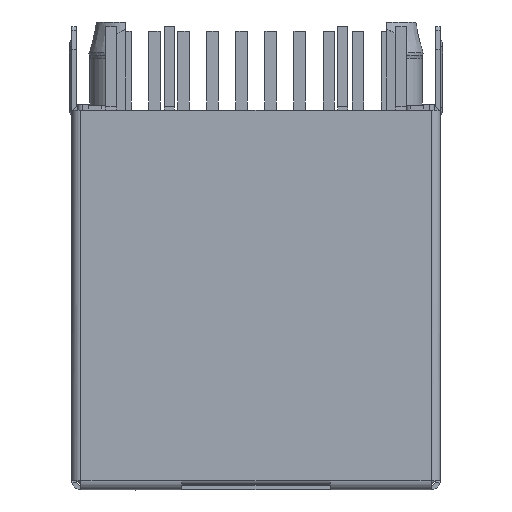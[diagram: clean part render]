
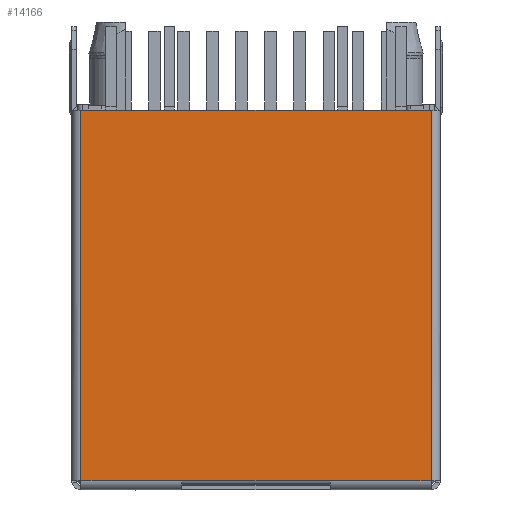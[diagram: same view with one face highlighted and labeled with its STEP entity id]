
A CAD part, left-side view. The second image highlights one B-rep face of the part: STEP entity #14166.
In plain terms, the highlighted planar face has unit normal (-1, 0, 0).
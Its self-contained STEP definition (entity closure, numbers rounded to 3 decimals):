
#1871=DIRECTION('',(0.,0.,-1.));
#1872=VECTOR('',#1871,16.2);
#1873=CARTESIAN_POINT('',(-8.425,7.65,8.175));
#1874=LINE('',#1873,#1872);
#2236=DIRECTION('',(0.,-1.,0.));
#2237=VECTOR('',#2236,4.4);
#2238=CARTESIAN_POINT('',(-8.425,7.65,-8.025));
#2239=LINE('',#2238,#2237);
#2254=DIRECTION('',(0.,1.,0.));
#2255=VECTOR('',#2254,6.5);
#2256=CARTESIAN_POINT('',(-8.425,-3.25,-8.025));
#2257=LINE('',#2256,#2255);
#2266=DIRECTION('',(0.,-1.,0.));
#2267=VECTOR('',#2266,15.3);
#2268=CARTESIAN_POINT('',(-8.425,7.65,8.175));
#2269=LINE('',#2268,#2267);
#2296=DIRECTION('',(0.,-1.,0.));
#2297=VECTOR('',#2296,4.4);
#2298=CARTESIAN_POINT('',(-8.425,-3.25,-8.025));
#2299=LINE('',#2298,#2297);
#2337=DIRECTION('',(0.,0.,1.));
#2338=VECTOR('',#2337,16.2);
#2339=CARTESIAN_POINT('',(-8.425,-7.65,-8.025));
#2340=LINE('',#2339,#2338);
#10940=CARTESIAN_POINT('',(-8.425,-3.25,-8.025));
#10941=CARTESIAN_POINT('',(-8.425,3.25,-8.025));
#10942=VERTEX_POINT('',#10940);
#10943=VERTEX_POINT('',#10941);
#10948=CARTESIAN_POINT('',(-8.425,-7.65,-8.025));
#10949=VERTEX_POINT('',#10948);
#10950=CARTESIAN_POINT('',(-8.425,-7.65,8.175));
#10951=VERTEX_POINT('',#10950);
#10952=CARTESIAN_POINT('',(-8.425,7.65,8.175));
#10953=VERTEX_POINT('',#10952);
#10954=CARTESIAN_POINT('',(-8.425,7.65,-8.025));
#10955=VERTEX_POINT('',#10954);
#14150=CARTESIAN_POINT('',(-8.425,0.,0.075));
#14151=DIRECTION('',(1.,0.,0.));
#14152=DIRECTION('',(0.,0.,1.));
#14153=AXIS2_PLACEMENT_3D('',#14150,#14151,#14152);
#14154=PLANE('',#14153);
#14155=ORIENTED_EDGE('',*,*,#14140,.T.);
#14156=ORIENTED_EDGE('',*,*,#14115,.F.);
#14157=ORIENTED_EDGE('',*,*,#13637,.F.);
#14159=ORIENTED_EDGE('',*,*,#14158,.T.);
#14161=ORIENTED_EDGE('',*,*,#14160,.F.);
#14163=ORIENTED_EDGE('',*,*,#14162,.F.);
#14164=EDGE_LOOP('',(#14155,#14156,#14157,#14159,#14161,#14163));
#14165=FACE_OUTER_BOUND('',#14164,.F.);
#14166=ADVANCED_FACE('',(#14165),#14154,.F.);
#13637=EDGE_CURVE('',#10953,#10955,#1874,.T.);
#14115=EDGE_CURVE('',#10955,#10943,#2239,.T.);
#14140=EDGE_CURVE('',#10942,#10943,#2257,.T.);
#14158=EDGE_CURVE('',#10953,#10951,#2269,.T.);
#14160=EDGE_CURVE('',#10949,#10951,#2340,.T.);
#14162=EDGE_CURVE('',#10942,#10949,#2299,.T.);
